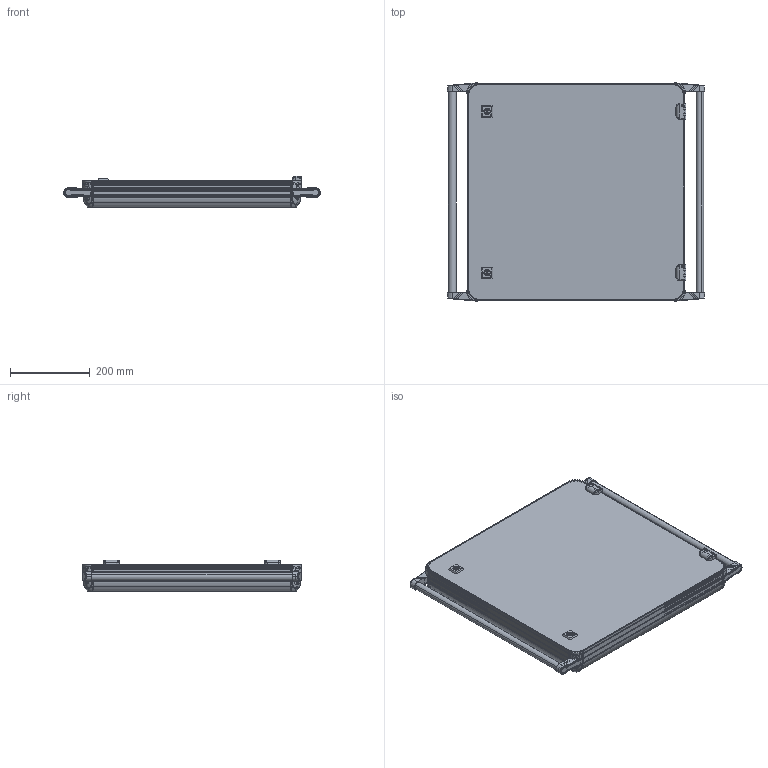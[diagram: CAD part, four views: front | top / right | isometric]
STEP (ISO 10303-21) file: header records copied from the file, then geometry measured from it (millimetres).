
FILE_DESCRIPTION (( 'STEP AP214' ), '1' );
FILE_NAME ('6000-0212.STEP', '2022-08-31T13:17:51', ( '' ), ( '' ), 'SwSTEP 2.0', 'SolidWorks 2022', '' );
FILE_SCHEMA (( 'AUTOMOTIVE_DESIGN' ));
Length unit declared in the file: millimetre
Products named in the file (7): 6000-0212; ECO6000-0100(SAÐ); ECO6000-0100(SOL); HPECO-060-001-595_495; 500X500; boru_525; ARKA_KAPAK_500X500
Assembly tree (12 placements, depth 2):
  6000-0212
    500X500
    ARKA_KAPAK_500X500
    boru_525  x2
    HPECO-060-001-595_495  x4
    ECO6000-0100(SOL)  x2
    ECO6000-0100(SAÐ)  x2
Bounding box: 644.62 x 547 x 79.15 mm (x, y, z)
Volume: 2518287.6 mm3; surface area: 1993702.4 mm2
Topology: 20 solids, 78 shells, 5893 faces, 15874 edges, 9916 vertices
Faces by surface type: plane 2269, cylinder 1646, bspline 1108, cone 528, torus 296, sphere 46
Entity records: 182652 total; most frequent: CARTESIAN_POINT 49221, ORIENTED_EDGE 21206, DIRECTION 17713, EDGE_CURVE 10603, VERTEX_POINT 6611, AXIS2_PLACEMENT_3D 6506, LINE 4701, VECTOR 4701
